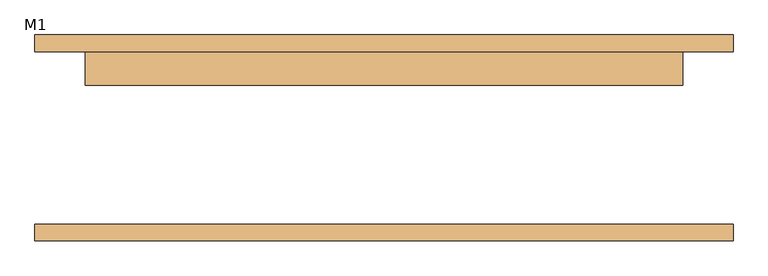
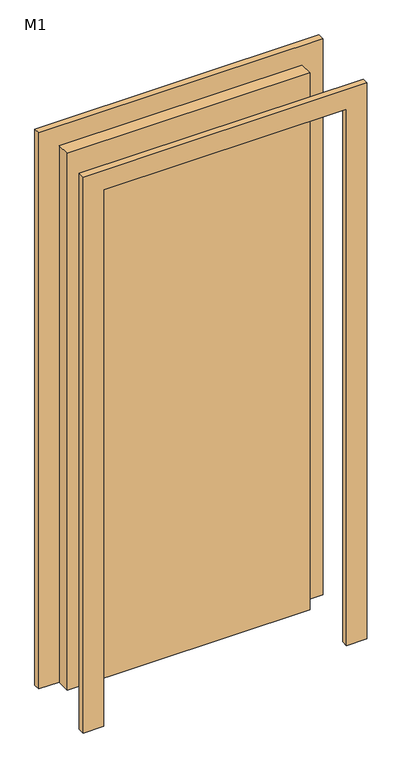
"""IFC4 building model written with IfcOpenShell, lengths in millimetres: door geometry, 单扇 - 与墙齐 : M1."""

import ifcopenshell
import ifcopenshell.guid

model = None  # the IFC model being written
_history = None  # IfcOwnerHistory: only IFC2X3 demands one
_inside = {}  # id of a spatial element -> (the spatial element, [elements in it])
_under = {}  # id of a project, library or spatial element -> (it, [spatial elements below it])
_declared = {}  # id of a project -> (the project, [libraries it declares])
_typed = {}  # id of a type object -> (the type object, [elements of that type])
_made_of = {}  # id of a material, layer set ... -> (it, [elements and type objects made of it])


def new_model(schema):
    """Start an empty IFC model of exactly this schema.

    Asked for "IFC4X3", IfcOpenShell would pick the latest addendum, in which some entities
    have other attributes; the version numbers below select the first issue.
    IFC2X3 requires an IfcOwnerHistory on every rooted entity: one is made here for all.
    """
    global model, _history
    if schema == "IFC4X3":
        model = ifcopenshell.file(schema_version=(4, 3, 0, 0))
    else:
        model = ifcopenshell.file(schema=schema)
    _inside.clear()
    _under.clear()
    _declared.clear()
    _typed.clear()
    _made_of.clear()
    _history = None
    if model.schema == "IFC2X3":
        org = make("IfcOrganization", Name="unknown")
        user = make(
            "IfcPersonAndOrganization",
            ThePerson=make("IfcPerson", FamilyName="unknown"),
            TheOrganization=org,
        )
        app = make(
            "IfcApplication",
            ApplicationDeveloper=org,
            Version="unknown",
            ApplicationFullName="unknown",
            ApplicationIdentifier="unknown",
        )
        _history = make(
            "IfcOwnerHistory",
            OwningUser=user,
            OwningApplication=app,
            ChangeAction="ADDED",
            CreationDate=0,
        )
    return model


def make(cls, **values):
    """One entity of the class cls with the attributes given. An attribute that is None is left unset."""
    return model.create_entity(
        cls, **{name: value for name, value in values.items() if value is not None}
    )


def rooted(cls, **values):
    """An entity with a GlobalId (a new one), such as an element, a storey or a relation."""
    return make(cls, GlobalId=ifcopenshell.guid.new(), OwnerHistory=_history, **values)


def si_unit(unit_type, name, prefix=None):
    """IfcSIUnit, for example si_unit("LENGTHUNIT", "METRE", prefix="MILLI")."""
    return make("IfcSIUnit", UnitType=unit_type, Prefix=prefix, Name=name)


def assignment(units):
    """IfcUnitAssignment: the units of a project."""
    return None if units is None else make("IfcUnitAssignment", Units=units)


def point(xyz):
    """IfcCartesianPoint."""
    return None if xyz is None else make("IfcCartesianPoint", Coordinates=xyz)


def direction(xyz):
    """IfcDirection."""
    return None if xyz is None else make("IfcDirection", DirectionRatios=xyz)


def frame(location, z_axis=None, x_axis=None):
    """IfcAxis2Placement3D, a coordinate frame: its origin and axes. An axis left out is left unset."""
    return make(
        "IfcAxis2Placement3D",
        Location=point(location),
        Axis=direction(z_axis),
        RefDirection=direction(x_axis),
    )


def origin():
    """The frame at (0, 0, 0) with its axes left unset."""
    return frame((0.0, 0.0, 0.0))


def origin_with_axes():
    """The frame at (0, 0, 0) with the z axis (0, 0, 1) and the x axis (1, 0, 0) written out."""
    return frame((0.0, 0.0, 0.0), z_axis=(0.0, 0.0, 1.0), x_axis=(1.0, 0.0, 0.0))


def place(relative_to, where):
    """IfcLocalPlacement: puts the frame where relative to a parent placement (None: the world)."""
    return make(
        "IfcLocalPlacement", PlacementRelTo=relative_to, RelativePlacement=where
    )


def context(
    kind, dimensions, precision=None, world=None, true_north=None, identifier=None
):
    """IfcGeometricRepresentationContext, for example the 3D "Model" context."""
    return make(
        "IfcGeometricRepresentationContext",
        ContextIdentifier=identifier,
        ContextType=kind,
        CoordinateSpaceDimension=dimensions,
        Precision=precision,
        WorldCoordinateSystem=world,
        TrueNorth=true_north,
    )


def project(units=None, contexts=None):
    """IfcProject with its units and contexts."""
    return rooted(
        "IfcProject",
        Name="project",
        RepresentationContexts=contexts,
        UnitsInContext=assignment(units),
    )


def spatial(cls, under=None, at=None, **own):
    """A site, building, storey or space (cls), placed at a placement, below another one or the project."""
    s = rooted(cls, ObjectPlacement=at, **own)
    if under is not None:
        _under.setdefault(under.id(), (under, []))[1].append(s)
    return s


def polyline(points):
    """IfcPolyline through the points."""
    return make("IfcPolyline", Points=[point(p) for p in points])


def outline(outer, holes=None, kind="AREA"):
    """IfcArbitraryClosedProfileDef: a profile drawn as a closed curve; with holes, ...WithVoids."""
    if holes is None:
        return make("IfcArbitraryClosedProfileDef", ProfileType=kind, OuterCurve=outer)
    return make(
        "IfcArbitraryProfileDefWithVoids",
        ProfileType=kind,
        OuterCurve=outer,
        InnerCurves=holes,
    )


def extrude(swept, where, along, depth):
    """IfcExtrudedAreaSolid: the profile swept, set in the frame where, extruded along a direction by depth."""
    return make(
        "IfcExtrudedAreaSolid",
        SweptArea=swept,
        Position=where,
        ExtrudedDirection=direction(along),
        Depth=depth,
    )


def shape(context_of_items, identifier, shape_type, items):
    """IfcShapeRepresentation: the items that make up one representation, for example the "Body"."""
    return make(
        "IfcShapeRepresentation",
        ContextOfItems=context_of_items,
        RepresentationIdentifier=identifier,
        RepresentationType=shape_type,
        Items=items,
    )


def source(mapping_origin, context_of_items, identifier, shape_type, items):
    """IfcRepresentationMap: a shape defined once, which mapped items show again and again."""
    return make(
        "IfcRepresentationMap",
        MappingOrigin=mapping_origin,
        MappedRepresentation=shape(context_of_items, identifier, shape_type, items),
    )


def transform(
    local_origin,
    x_axis=None,
    y_axis=None,
    z_axis=None,
    scale=None,
    scale2=None,
    scale3=None,
    uniform=True,
):
    """IfcCartesianTransformationOperator3D, or its non-uniform kind. x_axis, y_axis, z_axis: its Axis1, 2, 3."""
    if uniform:
        return make(
            "IfcCartesianTransformationOperator3D",
            Axis1=direction(x_axis),
            Axis2=direction(y_axis),
            LocalOrigin=point(local_origin),
            Scale=scale,
            Axis3=direction(z_axis),
        )
    return make(
        "IfcCartesianTransformationOperator3DnonUniform",
        Axis1=direction(x_axis),
        Axis2=direction(y_axis),
        LocalOrigin=point(local_origin),
        Scale=scale,
        Axis3=direction(z_axis),
        Scale2=scale2,
        Scale3=scale3,
    )


def mapped(mapping_source, mapping_target):
    """IfcMappedItem: shows the shape of a source again, moved by a transform."""
    return make(
        "IfcMappedItem", MappingSource=mapping_source, MappingTarget=mapping_target
    )


def made_of(thing, what):
    """Note that an element or type object is made of a material, layer set ...; save() writes the relation."""
    if what is not None:
        _made_of.setdefault(what.id(), (what, []))[1].append(thing)
    return thing


def element(
    cls,
    number,
    at=None,
    inside=None,
    cuts=None,
    type_object=None,
    material=None,
    context=None,
    identifier="Body",
    shape_type=None,
    held_by="IfcProductDefinitionShape",
    body=None,
    shapes=None,
    **own,
):
    """One element of the class cls, such as IfcWall. Its Tag is "e" and its number.

    at: its placement. inside: the storey or other place that contains it. cuts: it is an
    opening in that element (IfcRelVoidsElement). A single representation is given by context,
    identifier, shape_type and body (its items); several are given by shapes. held_by: the class
    of the entity that holds the representations. save() writes the other relations.
    """
    e = rooted(cls, Tag="e%d" % number, ObjectPlacement=at, **own)
    if body is not None:
        shapes = [shape(context, identifier, shape_type, body)]
    if shapes is not None:
        e.Representation = make(held_by, Representations=shapes)
    if inside is not None:
        _inside.setdefault(inside.id(), (inside, []))[1].append(e)
    if cuts is not None:
        rooted(
            "IfcRelVoidsElement", RelatingBuildingElement=cuts, RelatedOpeningElement=e
        )
    if type_object is not None:
        _typed.setdefault(type_object.id(), (type_object, []))[1].append(e)
    return made_of(e, material)


def aggregate(whole, parts):
    """IfcRelAggregates: a whole, such as a stair, and the parts it consists of."""
    return rooted("IfcRelAggregates", RelatingObject=whole, RelatedObjects=parts)


def save(model, path):
    """Write the relations noted so far, then the file.

    IfcRelAggregates (storeys below a building ...), IfcRelContainedInSpatialStructure (elements
    in a storey), IfcRelDefinesByType, IfcRelAssociatesMaterial and IfcRelDeclares: one each for
    every whole, place, type object, material and project.
    """
    for whole, parts in _under.values():
        aggregate(whole, parts)
    for where, things in _inside.values():
        rooted(
            "IfcRelContainedInSpatialStructure",
            RelatedElements=things,
            RelatingStructure=where,
        )
    for kind, things in _typed.values():
        rooted("IfcRelDefinesByType", RelatedObjects=things, RelatingType=kind)
    for what, things in _made_of.values():
        rooted("IfcRelAssociatesMaterial", RelatedObjects=things, RelatingMaterial=what)
    for by, libraries in _declared.values():
        rooted("IfcRelDeclares", RelatingContext=by, RelatedDefinitions=libraries)
    model.write(path)


def m1_ab81c9c2(model_context):
    return source(origin(), model_context, "Body", "SweptSolid", [
        extrude(outline(polyline([(2176.0, -526.0), (0.0, -526.0), (0.0, -450.0), (2100.0, -450.0), (2100.0, 450.0), (0.0, 450.0), (0.0, 526.0), (2176.0, 526.0), (2176.0, -526.0)])), frame((0.0, 130.0, 0.0), z_axis=(0.0, 1.0, 0.0), x_axis=(0.0, 0.0, 1.0)), (0.0, 0.0, 1.0), 25.0),
        extrude(outline(polyline([(2176.0, 526.0), (2176.0, -526.0), (0.0, -526.0), (0.0, -450.0), (2100.0, -450.0), (2100.0, 450.0), (0.0, 450.0), (0.0, 526.0), (2176.0, 526.0)])), frame((0.0, -155.0, 0.0), z_axis=(0.0, 1.0, 0.0), x_axis=(0.0, 0.0, 1.0)), (0.0, 0.0, 1.0), 25.0),
        extrude(outline(polyline([(450.0, 79.0), (-450.0, 79.0), (-450.0, 130.0), (450.0, 130.0), (450.0, 79.0)])), origin_with_axes(), (0.0, 0.0, 1.0), 2100.0),
    ])


if __name__ == "__main__":
    model = new_model("IFC4")
    model_context = context("Model", 3, world=origin())
    ifc_project = project(units=[si_unit("LENGTHUNIT", "METRE", prefix="MILLI")], contexts=[model_context])
    site = spatial("IfcSite", under=ifc_project)
    building = spatial("IfcBuilding", under=site)
    placement = place(None, origin())
    m1_shape = m1_ab81c9c2(model_context)
    element("IfcDoor", 1, ObjectType="单扇 - 与墙齐 : M1", at=placement, inside=building, context=model_context, shape_type="MappedRepresentation", body=[
        mapped(m1_shape, transform((0.0, 0.0, 0.0), x_axis=(1.0, 0.0, 0.0), y_axis=(0.0, 1.0, 0.0), z_axis=(0.0, 0.0, 1.0))),
    ])
    save(model, "model.ifc")
